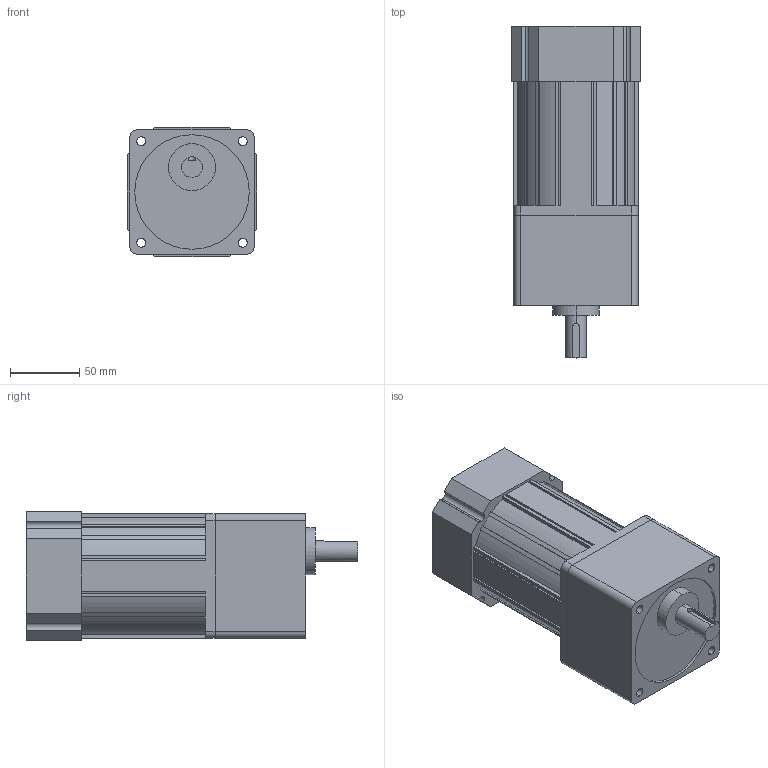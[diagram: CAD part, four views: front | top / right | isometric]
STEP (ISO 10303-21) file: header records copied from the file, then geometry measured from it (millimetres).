
FILE_DESCRIPTION (( 'STEP AP203' ), '1' );
FILE_NAME ('L9VK003B + L9I90PBH.STEP', '2018-09-20T05:34:25', ( '' ), ( '' ), 'SwSTEP 2.0', 'SolidWorks 2017', '' );
FILE_SCHEMA (( 'CONFIG_CONTROL_DESIGN' ));
Length unit declared in the file: millimetre
Products named in the file (1): L9VK003B + L9I90PBH
Bounding box: 94 x 240.5 x 94 mm (x, y, z)
Volume: 1479223 mm3; surface area: 114046.6 mm2
Topology: 2 solids, 2 shells, 148 faces, 420 edges, 280 vertices
Faces by surface type: plane 91, cylinder 57
Entity records: 4952 total; most frequent: CARTESIAN_POINT 881, ORIENTED_EDGE 840, DIRECTION 829, EDGE_CURVE 420, LINE 305, VECTOR 305, VERTEX_POINT 280, AXIS2_PLACEMENT_3D 262
